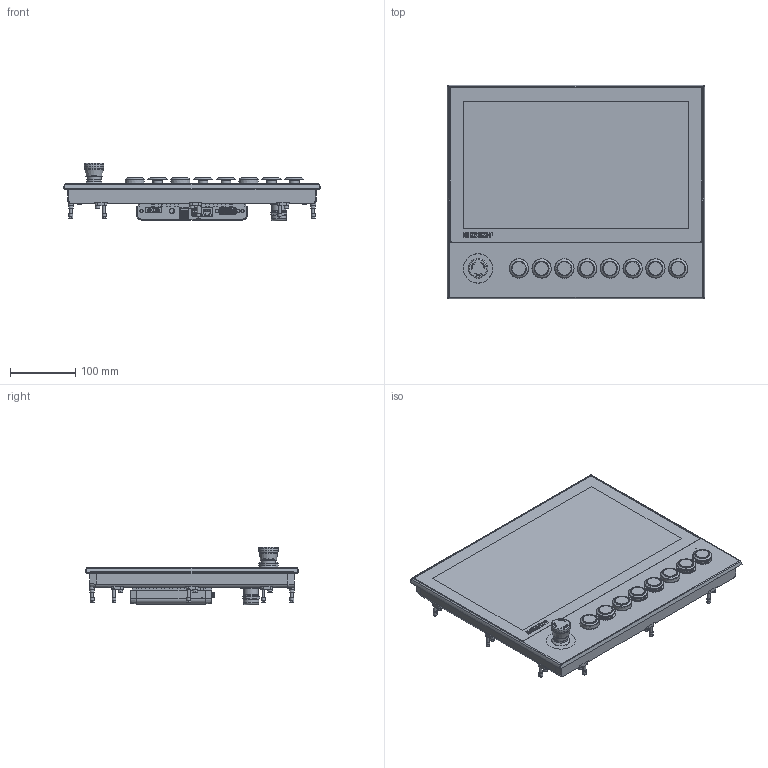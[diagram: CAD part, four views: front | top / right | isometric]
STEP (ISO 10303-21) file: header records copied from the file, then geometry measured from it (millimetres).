
FILE_DESCRIPTION(/* description */ ('-'),/* implementation_level */ '2;1');
FILE_NAME(/* name */ '0000003446.stp',/* time_stamp */ '2026-04-01T15:18:34+02:00',/* author */ ('-'),/* organization */ ('(c) Beckhoff Automation GmbH & Co. KG, 33415 Verl'),/* preprocessor_version */ 'ST-DEVELOPER v20.1',/* originating_system */ 'Autodesk Inventor 2026',/* authorisation */ '-');
FILE_SCHEMA (('AUTOMOTIVE_DESIGN { 1 0 10303 214 3 1 1 }'));
Products named in the file (1): CP2916-G004
Bounding box: 395.8 x 328.2 x 88.85 mm (x, y, z)
Volume: 4245008.6 mm3; surface area: 387289.2 mm2
Topology: 9 solids, 64 shells, 2902 faces, 7057 edges, 4566 vertices
Faces by surface type: plane 1850, cylinder 743, cone 136, bspline 95, torus 70, sphere 8
Full cylindrical faces by diameter (mm): 2.459 x4, 4.25 x8, 4.4 x12, 4.917 x12, 5.5 x2, 5.7 x8, 6 x12, 6.03 x1, 7 x12, 8 x1, 10 x1, 15 x8, 19 x8, 19.85 x8, 20.9 x8, 21.5 x1, 22 x2, 22.2 x1, 22.27 x8, 22.55 x1, 22.642 x8, 22.8 x1, 23.52 x1, 23.98 x1, 27.6 x1, 28 x2, 28.6 x8, 29.2 x8, 45 x1, 45.2 x1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
Entity records: 90571 total; most frequent: CARTESIAN_POINT 18256, DIRECTION 14567, ORIENTED_EDGE 14082, EDGE_CURVE 7041, AXIS2_PLACEMENT_3D 4994, LINE 4579, VECTOR 4579, VERTEX_POINT 4566
